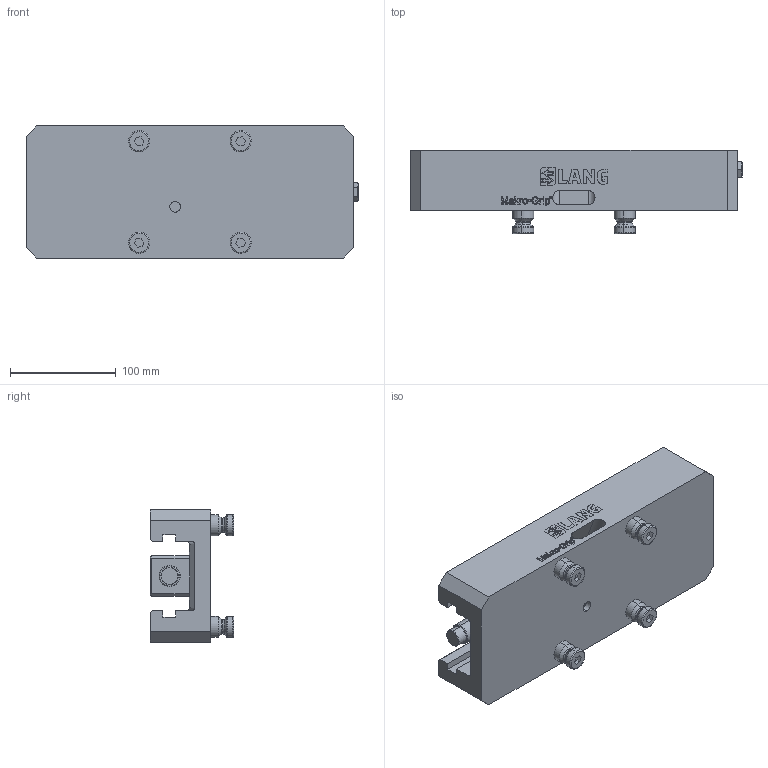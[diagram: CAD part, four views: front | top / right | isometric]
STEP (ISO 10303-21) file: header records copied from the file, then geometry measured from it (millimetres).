
FILE_DESCRIPTION (( 'STEP AP214' ), '1' );
FILE_NAME ('40305-125.STEP', '2024-12-11T08:40:27', ( '' ), ( '' ), 'SwSTEP 2.0', 'SolidWorks 2021', '' );
FILE_SCHEMA (( 'AUTOMOTIVE_DESIGN' ));
Length unit declared in the file: millimetre
Products named in the file (1): 40305-125
Bounding box: 314 x 79 x 125.24 mm (x, y, z)
Volume: 1455299.9 mm3; surface area: 200098.2 mm2
Topology: 48 solids, 48 shells, 853 faces, 2122 edges, 1378 vertices
Faces by surface type: plane 527, bspline 192, cylinder 64, cone 38, torus 32
Entity records: 42798 total; most frequent: CARTESIAN_POINT 13850, ORIENTED_EDGE 4228, DIRECTION 3224, EDGE_CURVE 2114, LINE 1512, VECTOR 1512, VERTEX_POINT 1378, UNCERTAINTY_MEASURE_WITH_UNIT 903
